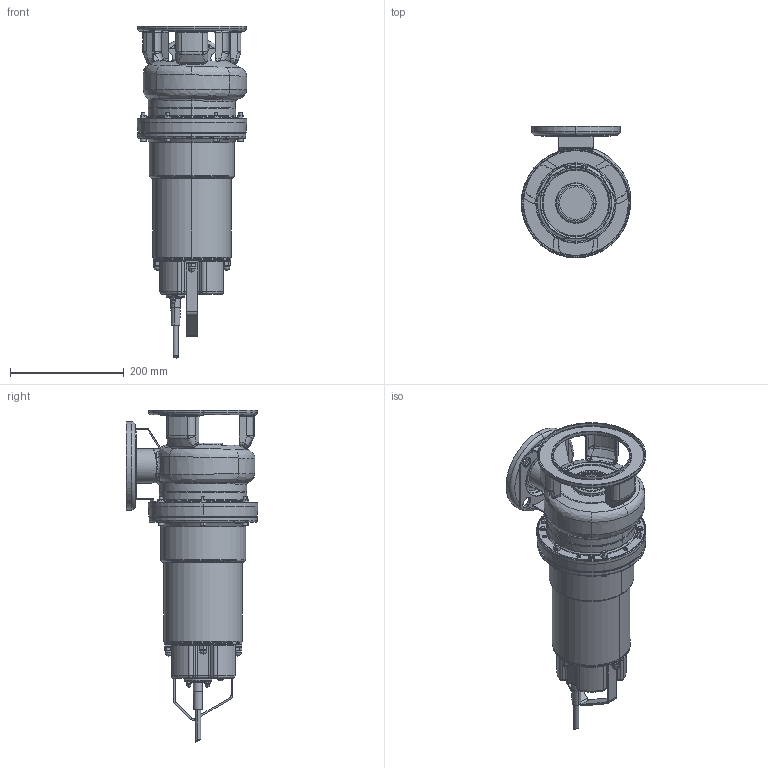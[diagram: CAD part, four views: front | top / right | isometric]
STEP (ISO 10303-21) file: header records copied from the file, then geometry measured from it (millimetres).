
FILE_DESCRIPTION((''),'2;1');
FILE_NAME('DWF_300_ASM','2009-09-28T',('Utente'),('"Ebara Pumps Europe +39.444.706811"'),'PRO/ENGINEER BY PARAMETRIC TECHNOLOGY CORPORATION, 2008400','PRO/ENGINEER BY PARAMETRIC TECHNOLOGY CORPORATION, 2008400','');
FILE_SCHEMA(('AUTOMOTIVE_DESIGN { 1 0 10303 214 1 1 1 1 }'));
Length unit declared in the file: millimetre
Products named in the file (19): 20698; DADO_A_SALDARE_M6; DADO_M5; 62032; 20986; 20985; 20987_ASM; 15032; 72074; CORPO_POMPA_DWF_ASM; CASSA_MOTORE_ALTA_M6X45; COPERCHIO_MOTORE_25081; 60022; 16022; 66002_SEMPLICE; 65003_SEMPLICE; DADO_CALOTTA_M5; VITE_TCC_M5X8_UNI7687; DWF_300_ASM
Assembly tree (29 placements, depth 4):
  DWF_300_ASM
    CORPO_POMPA_DWF_ASM
      20698
      DADO_A_SALDARE_M6  x6
      DADO_M5  x4
      62032
      20987_ASM
        20986
        20985
      15032
      72074  x3
    CASSA_MOTORE_ALTA_M6X45
    COPERCHIO_MOTORE_25081
    60022
    16022
    66002_SEMPLICE
    65003_SEMPLICE
    DADO_CALOTTA_M5  x2
    VITE_TCC_M5X8_UNI7687
Bounding box: 192.32 x 231 x 582.52 mm (x, y, z)
Volume: 4869443.5 mm3; surface area: 691200 mm2
Topology: 27 solids, 30 shells, 1232 faces, 2838 edges, 1722 vertices
Faces by surface type: plane 379, cylinder 373, bspline 178, torus 157, cone 115, sphere 26, extrusion 4
Entity records: 38056 total; most frequent: CARTESIAN_POINT 14578, DIRECTION 4894, ORIENTED_EDGE 4464, EDGE_CURVE 2234, AXIS2_PLACEMENT_3D 2056, VERTEX_POINT 1365, CIRCLE 1129, EDGE_LOOP 1079
